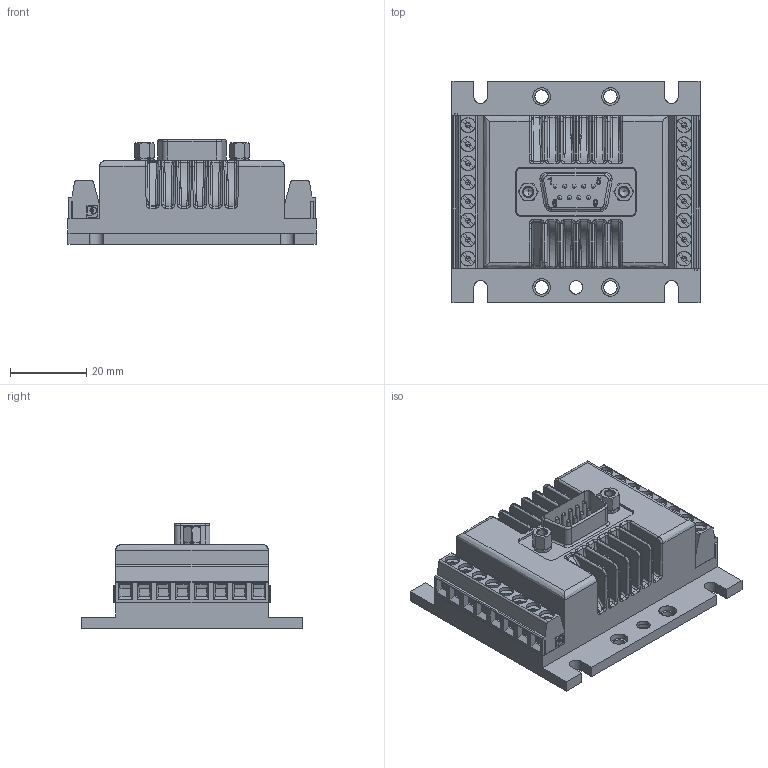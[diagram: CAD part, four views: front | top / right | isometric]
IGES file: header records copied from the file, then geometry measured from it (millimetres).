
Global section: file name: D:\Daten\PLM_Export\MC3006.igs; native system: NX V7.5; preprocessor: SIEMENS PLM Software NX 7.5; author: DR. FRITZ FAULHABER GmbH & Co. KG; organization: DR. FRITZ FAULHABER GmbH & Co. KG; date: 20111110.101857; units: millimetre
Bounding box: 65 x 58 x 27.5 mm (x, y, z)
Surface area: 20897 mm2 (no closed solid volume)
Topology: 0 solids, 0 shells, 1598 faces, 9116 edges, 8984 vertices
Faces by surface type: bspline 1598
